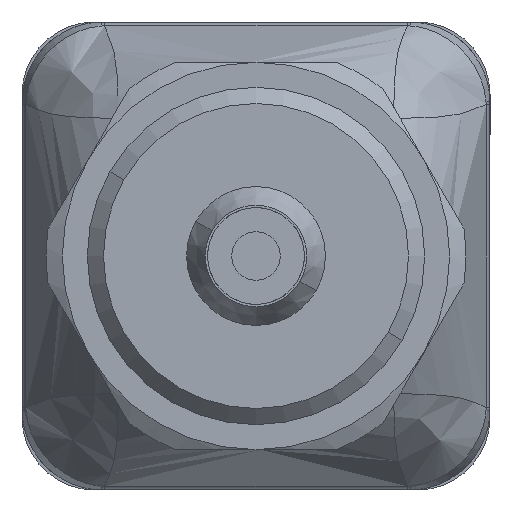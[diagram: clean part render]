
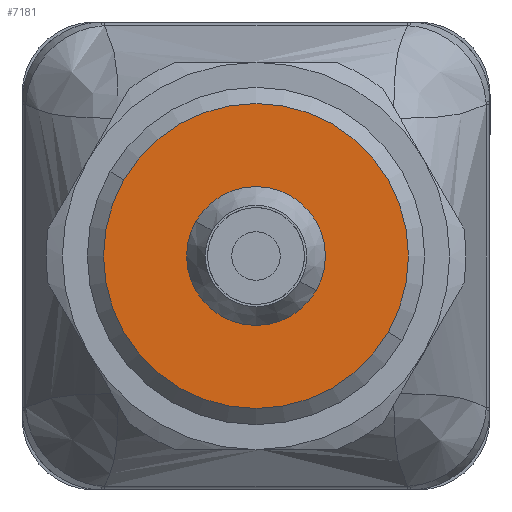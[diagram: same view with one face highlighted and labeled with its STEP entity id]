
A CAD part, left-side view. The second image highlights one B-rep face of the part: STEP entity #7181.
In plain terms, the highlighted planar face has unit normal (-1, 0, 0).
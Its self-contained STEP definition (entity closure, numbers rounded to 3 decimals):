
#216 = CARTESIAN_POINT ( 'NONE',  ( -79.205, -42.635, 32.431 ) ) ;
#341 = CIRCLE ( 'NONE', #9204, 4.3 ) ;
#461 = DIRECTION ( 'NONE',  ( -1., 0., 0. ) ) ;
#778 = EDGE_LOOP ( 'NONE', ( #3903, #1049 ) ) ;
#1049 = ORIENTED_EDGE ( 'NONE', *, *, #6701, .T. ) ;
#1126 = CARTESIAN_POINT ( 'NONE',  ( -79.205, -50.819, 27.706 ) ) ;
#1387 = AXIS2_PLACEMENT_3D ( 'NONE', #8538, #1964, #10138 ) ;
#1622 = ORIENTED_EDGE ( 'NONE', *, *, #5476, .F. ) ;
#1946 = VERTEX_POINT ( 'NONE', #5035 ) ;
#1964 = DIRECTION ( 'NONE',  ( -1., 0., 0. ) ) ;
#2289 = CARTESIAN_POINT ( 'NONE',  ( -79.205, -46.359, 30.281 ) ) ;
#2401 = EDGE_CURVE ( 'NONE', #6942, #5490, #9903, .T. ) ;
#2526 = CARTESIAN_POINT ( 'NONE',  ( -79.205, -42.635, 32.431 ) ) ;
#2530 = DIRECTION ( 'NONE',  ( 0., -0.866, -0.5 ) ) ;
#2998 = EDGE_LOOP ( 'NONE', ( #1622, #8030 ) ) ;
#3283 = CIRCLE ( 'NONE', #1387, 9.45 ) ;
#3578 = AXIS2_PLACEMENT_3D ( 'NONE', #8819, #461, #3796 ) ;
#3796 = DIRECTION ( 'NONE',  ( 0., -0.866, -0.5 ) ) ;
#3903 = ORIENTED_EDGE ( 'NONE', *, *, #2401, .T. ) ;
#4360 = DIRECTION ( 'NONE',  ( 0., -0.866, -0.5 ) ) ;
#4577 = CIRCLE ( 'NONE', #3578, 4.3 ) ;
#4627 = CARTESIAN_POINT ( 'NONE',  ( -79.205, -34.451, 37.156 ) ) ;
#5035 = CARTESIAN_POINT ( 'NONE',  ( -79.205, -38.911, 34.581 ) ) ;
#5476 = EDGE_CURVE ( 'NONE', #8811, #1946, #4577, .T. ) ;
#5490 = VERTEX_POINT ( 'NONE', #4627 ) ;
#5808 = DIRECTION ( 'NONE',  ( -1., 0., 0. ) ) ;
#5907 = FACE_BOUND ( 'NONE', #2998, .T. ) ;
#6689 = FACE_OUTER_BOUND ( 'NONE', #778, .T. ) ;
#6701 = EDGE_CURVE ( 'NONE', #5490, #6942, #3283, .T. ) ;
#6942 = VERTEX_POINT ( 'NONE', #1126 ) ;
#7181 = ADVANCED_FACE ( 'NONE', ( #6689, #5907 ), #9818, .F. ) ;
#7753 = DIRECTION ( 'NONE',  ( -1., 0., 0. ) ) ;
#8030 = ORIENTED_EDGE ( 'NONE', *, *, #8469, .F. ) ;
#8312 = DIRECTION ( 'NONE',  ( 0., -0.866, -0.5 ) ) ;
#8469 = EDGE_CURVE ( 'NONE', #1946, #8811, #341, .T. ) ;
#8538 = CARTESIAN_POINT ( 'NONE',  ( -79.205, -42.635, 32.431 ) ) ;
#8563 = AXIS2_PLACEMENT_3D ( 'NONE', #9185, #5808, #2530 ) ;
#8811 = VERTEX_POINT ( 'NONE', #2289 ) ;
#8819 = CARTESIAN_POINT ( 'NONE',  ( -79.205, -42.635, 32.431 ) ) ;
#9035 = AXIS2_PLACEMENT_3D ( 'NONE', #2526, #10631, #8312 ) ;
#9185 = CARTESIAN_POINT ( 'NONE',  ( -79.205, -42.635, 32.431 ) ) ;
#9204 = AXIS2_PLACEMENT_3D ( 'NONE', #216, #7753, #4360 ) ;
#9818 = PLANE ( 'NONE',  #9035 ) ;
#9903 = CIRCLE ( 'NONE', #8563, 9.45 ) ;
#10138 = DIRECTION ( 'NONE',  ( 0., -0.866, -0.5 ) ) ;
#10631 = DIRECTION ( 'NONE',  ( 1., 0., 0. ) ) ;
